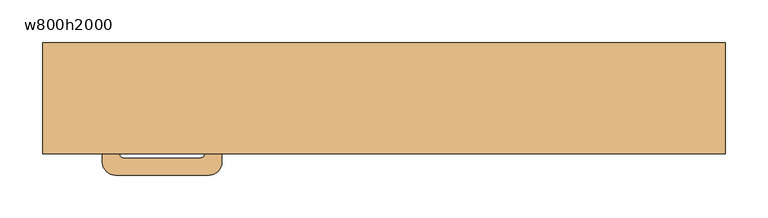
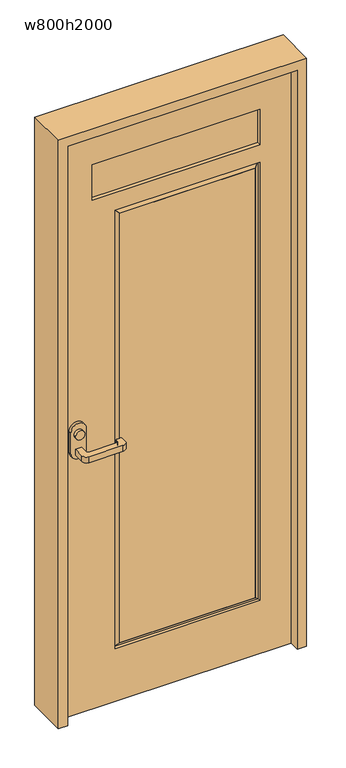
"""IFC4 building model written with IfcOpenShell, lengths in millimetres: door geometry, 片開戸CL2058 : w800h2000."""

import ifcopenshell
import ifcopenshell.guid

model = None  # the IFC model being written
_history = None  # IfcOwnerHistory: only IFC2X3 demands one
_inside = {}  # id of a spatial element -> (the spatial element, [elements in it])
_under = {}  # id of a project, library or spatial element -> (it, [spatial elements below it])
_declared = {}  # id of a project -> (the project, [libraries it declares])
_typed = {}  # id of a type object -> (the type object, [elements of that type])
_made_of = {}  # id of a material, layer set ... -> (it, [elements and type objects made of it])


def new_model(schema):
    """Start an empty IFC model of exactly this schema.

    Asked for "IFC4X3", IfcOpenShell would pick the latest addendum, in which some entities
    have other attributes; the version numbers below select the first issue.
    IFC2X3 requires an IfcOwnerHistory on every rooted entity: one is made here for all.
    """
    global model, _history
    if schema == "IFC4X3":
        model = ifcopenshell.file(schema_version=(4, 3, 0, 0))
    else:
        model = ifcopenshell.file(schema=schema)
    _inside.clear()
    _under.clear()
    _declared.clear()
    _typed.clear()
    _made_of.clear()
    _history = None
    if model.schema == "IFC2X3":
        org = make("IfcOrganization", Name="unknown")
        user = make(
            "IfcPersonAndOrganization",
            ThePerson=make("IfcPerson", FamilyName="unknown"),
            TheOrganization=org,
        )
        app = make(
            "IfcApplication",
            ApplicationDeveloper=org,
            Version="unknown",
            ApplicationFullName="unknown",
            ApplicationIdentifier="unknown",
        )
        _history = make(
            "IfcOwnerHistory",
            OwningUser=user,
            OwningApplication=app,
            ChangeAction="ADDED",
            CreationDate=0,
        )
    return model


def make(cls, **values):
    """One entity of the class cls with the attributes given. An attribute that is None is left unset."""
    return model.create_entity(
        cls, **{name: value for name, value in values.items() if value is not None}
    )


def rooted(cls, **values):
    """An entity with a GlobalId (a new one), such as an element, a storey or a relation."""
    return make(cls, GlobalId=ifcopenshell.guid.new(), OwnerHistory=_history, **values)


def si_unit(unit_type, name, prefix=None):
    """IfcSIUnit, for example si_unit("LENGTHUNIT", "METRE", prefix="MILLI")."""
    return make("IfcSIUnit", UnitType=unit_type, Prefix=prefix, Name=name)


def assignment(units):
    """IfcUnitAssignment: the units of a project."""
    return None if units is None else make("IfcUnitAssignment", Units=units)


def point(xyz):
    """IfcCartesianPoint."""
    return None if xyz is None else make("IfcCartesianPoint", Coordinates=xyz)


def direction(xyz):
    """IfcDirection."""
    return None if xyz is None else make("IfcDirection", DirectionRatios=xyz)


def frame(location, z_axis=None, x_axis=None):
    """IfcAxis2Placement3D, a coordinate frame: its origin and axes. An axis left out is left unset."""
    return make(
        "IfcAxis2Placement3D",
        Location=point(location),
        Axis=direction(z_axis),
        RefDirection=direction(x_axis),
    )


def frame_2d(location, x_axis=None):
    """IfcAxis2Placement2D, a coordinate frame in the plane: its origin and x axis."""
    return make(
        "IfcAxis2Placement2D", Location=point(location), RefDirection=direction(x_axis)
    )


def origin():
    """The frame at (0, 0, 0) with its axes left unset."""
    return frame((0.0, 0.0, 0.0))


def place(relative_to, where):
    """IfcLocalPlacement: puts the frame where relative to a parent placement (None: the world)."""
    return make(
        "IfcLocalPlacement", PlacementRelTo=relative_to, RelativePlacement=where
    )


def context(
    kind, dimensions, precision=None, world=None, true_north=None, identifier=None
):
    """IfcGeometricRepresentationContext, for example the 3D "Model" context."""
    return make(
        "IfcGeometricRepresentationContext",
        ContextIdentifier=identifier,
        ContextType=kind,
        CoordinateSpaceDimension=dimensions,
        Precision=precision,
        WorldCoordinateSystem=world,
        TrueNorth=true_north,
    )


def project(units=None, contexts=None):
    """IfcProject with its units and contexts."""
    return rooted(
        "IfcProject",
        Name="project",
        RepresentationContexts=contexts,
        UnitsInContext=assignment(units),
    )


def spatial(cls, under=None, at=None, **own):
    """A site, building, storey or space (cls), placed at a placement, below another one or the project."""
    s = rooted(cls, ObjectPlacement=at, **own)
    if under is not None:
        _under.setdefault(under.id(), (under, []))[1].append(s)
    return s


def polyline(points):
    """IfcPolyline through the points."""
    return make("IfcPolyline", Points=[point(p) for p in points])


def circle_curve(where, radius):
    """IfcCircle in the frame where."""
    return make("IfcCircle", Position=where, Radius=radius)


def trimmed(basis, trim1, trim2, sense, master):
    """IfcTrimmedCurve: the piece of a basis curve between two trims."""
    return make(
        "IfcTrimmedCurve",
        BasisCurve=basis,
        Trim1=trim1,
        Trim2=trim2,
        SenseAgreement=sense,
        MasterRepresentation=master,
    )


def segment(curve, same_sense, transition):
    """IfcCompositeCurveSegment."""
    return make(
        "IfcCompositeCurveSegment",
        Transition=transition,
        SameSense=same_sense,
        ParentCurve=curve,
    )


def composite_curve(segments, self_intersect=None):
    """IfcCompositeCurve: segments joined end to end."""
    return make("IfcCompositeCurve", Segments=segments, SelfIntersect=self_intersect)


def outline(outer, holes=None, kind="AREA"):
    """IfcArbitraryClosedProfileDef: a profile drawn as a closed curve; with holes, ...WithVoids."""
    if holes is None:
        return make("IfcArbitraryClosedProfileDef", ProfileType=kind, OuterCurve=outer)
    return make(
        "IfcArbitraryProfileDefWithVoids",
        ProfileType=kind,
        OuterCurve=outer,
        InnerCurves=holes,
    )


def extrude(swept, where, along, depth):
    """IfcExtrudedAreaSolid: the profile swept, set in the frame where, extruded along a direction by depth."""
    return make(
        "IfcExtrudedAreaSolid",
        SweptArea=swept,
        Position=where,
        ExtrudedDirection=direction(along),
        Depth=depth,
    )


def faces_of(points, faces, orient=None, outer=None):
    """IfcFace entities. A face is a list of loops; a loop is a list of indices into points, from 0.

    orient and outer hold one flag for each loop. By default every Orientation is true, the
    first loop of a face is its IfcFaceOuterBound and the others are IfcFaceBound.
    """
    made = []
    for i, loops in enumerate(faces):
        bounds = []
        for j, loop in enumerate(loops):
            is_outer = j == 0 if outer is None else outer[i][j]
            bounds.append(
                make(
                    "IfcFaceOuterBound" if is_outer else "IfcFaceBound",
                    Bound=make("IfcPolyLoop", Polygon=[points[k] for k in loop]),
                    Orientation=True if orient is None else orient[i][j],
                )
            )
        made.append(make("IfcFace", Bounds=bounds))
    return made


def faceted_brep(points, faces, orient=None, outer=None, voids=None):
    """IfcFacetedBrep: a solid bounded by flat faces; with voids (closed shells), ...WithVoids."""
    shared = [point(p) for p in points]
    hull = make("IfcClosedShell", CfsFaces=faces_of(shared, faces, orient, outer))
    if voids is None:
        return make("IfcFacetedBrep", Outer=hull)
    return make(
        "IfcFacetedBrepWithVoids",
        Outer=hull,
        Voids=[
            make(cls, CfsFaces=faces_of(shared, fs, o, b)) for cls, fs, o, b in voids
        ],
    )


def shape(context_of_items, identifier, shape_type, items):
    """IfcShapeRepresentation: the items that make up one representation, for example the "Body"."""
    return make(
        "IfcShapeRepresentation",
        ContextOfItems=context_of_items,
        RepresentationIdentifier=identifier,
        RepresentationType=shape_type,
        Items=items,
    )


def source(mapping_origin, context_of_items, identifier, shape_type, items):
    """IfcRepresentationMap: a shape defined once, which mapped items show again and again."""
    return make(
        "IfcRepresentationMap",
        MappingOrigin=mapping_origin,
        MappedRepresentation=shape(context_of_items, identifier, shape_type, items),
    )


def transform(
    local_origin,
    x_axis=None,
    y_axis=None,
    z_axis=None,
    scale=None,
    scale2=None,
    scale3=None,
    uniform=True,
):
    """IfcCartesianTransformationOperator3D, or its non-uniform kind. x_axis, y_axis, z_axis: its Axis1, 2, 3."""
    if uniform:
        return make(
            "IfcCartesianTransformationOperator3D",
            Axis1=direction(x_axis),
            Axis2=direction(y_axis),
            LocalOrigin=point(local_origin),
            Scale=scale,
            Axis3=direction(z_axis),
        )
    return make(
        "IfcCartesianTransformationOperator3DnonUniform",
        Axis1=direction(x_axis),
        Axis2=direction(y_axis),
        LocalOrigin=point(local_origin),
        Scale=scale,
        Axis3=direction(z_axis),
        Scale2=scale2,
        Scale3=scale3,
    )


def mapped(mapping_source, mapping_target):
    """IfcMappedItem: shows the shape of a source again, moved by a transform."""
    return make(
        "IfcMappedItem", MappingSource=mapping_source, MappingTarget=mapping_target
    )


def made_of(thing, what):
    """Note that an element or type object is made of a material, layer set ...; save() writes the relation."""
    if what is not None:
        _made_of.setdefault(what.id(), (what, []))[1].append(thing)
    return thing


def element(
    cls,
    number,
    at=None,
    inside=None,
    cuts=None,
    type_object=None,
    material=None,
    context=None,
    identifier="Body",
    shape_type=None,
    held_by="IfcProductDefinitionShape",
    body=None,
    shapes=None,
    **own,
):
    """One element of the class cls, such as IfcWall. Its Tag is "e" and its number.

    at: its placement. inside: the storey or other place that contains it. cuts: it is an
    opening in that element (IfcRelVoidsElement). A single representation is given by context,
    identifier, shape_type and body (its items); several are given by shapes. held_by: the class
    of the entity that holds the representations. save() writes the other relations.
    """
    e = rooted(cls, Tag="e%d" % number, ObjectPlacement=at, **own)
    if body is not None:
        shapes = [shape(context, identifier, shape_type, body)]
    if shapes is not None:
        e.Representation = make(held_by, Representations=shapes)
    if inside is not None:
        _inside.setdefault(inside.id(), (inside, []))[1].append(e)
    if cuts is not None:
        rooted(
            "IfcRelVoidsElement", RelatingBuildingElement=cuts, RelatedOpeningElement=e
        )
    if type_object is not None:
        _typed.setdefault(type_object.id(), (type_object, []))[1].append(e)
    return made_of(e, material)


def aggregate(whole, parts):
    """IfcRelAggregates: a whole, such as a stair, and the parts it consists of."""
    return rooted("IfcRelAggregates", RelatingObject=whole, RelatedObjects=parts)


def save(model, path):
    """Write the relations noted so far, then the file.

    IfcRelAggregates (storeys below a building ...), IfcRelContainedInSpatialStructure (elements
    in a storey), IfcRelDefinesByType, IfcRelAssociatesMaterial and IfcRelDeclares: one each for
    every whole, place, type object, material and project.
    """
    for whole, parts in _under.values():
        aggregate(whole, parts)
    for where, things in _inside.values():
        rooted(
            "IfcRelContainedInSpatialStructure",
            RelatedElements=things,
            RelatingStructure=where,
        )
    for kind, things in _typed.values():
        rooted("IfcRelDefinesByType", RelatedObjects=things, RelatingType=kind)
    for what, things in _made_of.values():
        rooted("IfcRelAssociatesMaterial", RelatedObjects=things, RelatingMaterial=what)
    for by, libraries in _declared.values():
        rooted("IfcRelDeclares", RelatingContext=by, RelatedDefinitions=libraries)
    model.write(path)


def w800h2000_13e9f519(model_context):
    return source(origin(), model_context, "Body", "SolidModel", [
        extrude(outline(composite_curve([segment(trimmed(circle_curve(frame_2d((-305.0, -65.0)), 5.0), [point((-310.0, -65.0))], [point((-305.0, -70.0))], True, "CARTESIAN"), True, "CONTINUOUS"), segment(polyline([(-305.0, -70.0), (-215.0, -70.0)]), True, "CONTINUOUS"), segment(trimmed(circle_curve(frame_2d((-215.0, -65.0)), 5.0), [point((-215.0, -70.0))], [point((-210.0, -65.0))], True, "CARTESIAN"), True, "CONTINUOUS"), segment(polyline([(-210.0, -65.0), (-210.0, -60.0)]), True, "CONTINUOUS"), segment(trimmed(circle_curve(frame_2d((-205.0, -60.0)), 5.0), [point((-210.0, -60.0))], [point((-205.0, -55.0))], False, "CARTESIAN"), True, "CONTINUOUS"), segment(polyline([(-205.0, -55.0), (-195.0, -55.0)]), True, "CONTINUOUS"), segment(trimmed(circle_curve(frame_2d((-195.0, -60.0)), 5.0), [point((-195.0, -55.0))], [point((-190.0, -60.0))], False, "CARTESIAN"), True, "CONTINUOUS"), segment(polyline([(-190.0, -60.0), (-190.0, -75.0)]), True, "CONTINUOUS"), segment(trimmed(circle_curve(frame_2d((-205.0, -75.0)), 15.0), [point((-190.0, -75.0))], [point((-205.0, -90.0))], False, "CARTESIAN"), True, "CONTINUOUS"), segment(polyline([(-205.0, -90.0), (-315.0, -90.0)]), True, "CONTINUOUS"), segment(trimmed(circle_curve(frame_2d((-315.0, -75.0)), 15.0), [point((-315.0, -90.0))], [point((-330.0, -75.0))], False, "CARTESIAN"), True, "CONTINUOUS"), segment(polyline([(-330.0, -75.0), (-330.0, -40.0), (-310.0, -40.0), (-310.0, -65.0)]), True, "CONTINUOUS")], self_intersect=False)), frame((0.0, 0.0, 890.0), z_axis=(0.0, 0.0, 1.0), x_axis=(1.0, 0.0, 0.0)), (0.0, 0.0, 1.0), 20.0),
        extrude(outline(composite_curve([segment(polyline([(-310.0, 35.0), (-310.0, 10.0), (-330.0, 10.0), (-330.0, 45.0)]), True, "CONTINUOUS"), segment(trimmed(circle_curve(frame_2d((-315.0, 45.0)), 15.0), [point((-330.0, 45.0))], [point((-315.0, 60.0))], False, "CARTESIAN"), True, "CONTINUOUS"), segment(polyline([(-315.0, 60.0), (-205.0, 60.0)]), True, "CONTINUOUS"), segment(trimmed(circle_curve(frame_2d((-205.0, 45.0)), 15.0), [point((-205.0, 60.0))], [point((-190.0, 45.0))], False, "CARTESIAN"), True, "CONTINUOUS"), segment(polyline([(-190.0, 45.0), (-190.0, 30.0)]), True, "CONTINUOUS"), segment(trimmed(circle_curve(frame_2d((-195.0, 30.0)), 5.0), [point((-190.0, 30.0))], [point((-195.0, 25.0))], False, "CARTESIAN"), True, "CONTINUOUS"), segment(polyline([(-195.0, 25.0), (-205.0, 25.0)]), True, "CONTINUOUS"), segment(trimmed(circle_curve(frame_2d((-205.0, 30.0)), 5.0), [point((-205.0, 25.0))], [point((-210.0, 30.0))], False, "CARTESIAN"), True, "CONTINUOUS"), segment(polyline([(-210.0, 30.0), (-210.0, 35.0)]), True, "CONTINUOUS"), segment(trimmed(circle_curve(frame_2d((-215.0, 35.0)), 5.0), [point((-210.0, 35.0))], [point((-215.0, 40.0))], True, "CARTESIAN"), True, "CONTINUOUS"), segment(polyline([(-215.0, 40.0), (-305.0, 40.0)]), True, "CONTINUOUS"), segment(trimmed(circle_curve(frame_2d((-305.0, 35.0)), 5.0), [point((-305.0, 40.0))], [point((-310.0, 35.0))], True, "CARTESIAN"), True, "CONTINUOUS")], self_intersect=False)), frame((0.0, 0.0, 890.0), z_axis=(0.0, 0.0, 1.0), x_axis=(1.0, 0.0, 0.0)), (0.0, 0.0, 1.0), 20.0),
        extrude(outline(composite_curve([segment(trimmed(circle_curve(frame_2d((960.0, -320.0)), 15.0), [point((960.0, -305.0))], [point((960.0, -335.0))], False, "CARTESIAN"), True, "CONTINUOUS"), segment(trimmed(circle_curve(frame_2d((960.0, -320.0)), 15.0), [point((960.0, -335.0))], [point((960.0, -305.0))], False, "CARTESIAN"), True, "CONTINUOUS")], self_intersect=False)), frame((0.0, 10.0, 0.0), z_axis=(0.0, 1.0, 0.0), x_axis=(0.0, 0.0, 1.0)), (0.0, 0.0, 1.0), 10.0),
        extrude(outline(composite_curve([segment(trimmed(circle_curve(frame_2d((970.0, -320.0)), 25.0), [point((970.0, -295.0))], [point((970.0, -345.0))], False, "CARTESIAN"), True, "CONTINUOUS"), segment(polyline([(970.0, -345.0), (900.0, -345.0)]), True, "CONTINUOUS"), segment(trimmed(circle_curve(frame_2d((900.0, -320.0)), 25.0), [point((900.0, -345.0))], [point((900.0, -295.0))], False, "CARTESIAN"), True, "CONTINUOUS"), segment(polyline([(900.0, -295.0), (970.0, -295.0)]), True, "CONTINUOUS")], self_intersect=False)), frame((0.0, 0.0, 0.0), z_axis=(0.0, 1.0, 0.0), x_axis=(0.0, 0.0, 1.0)), (0.0, 0.0, 1.0), 10.0),
        extrude(outline(composite_curve([segment(trimmed(circle_curve(frame_2d((960.0, -320.0)), 15.0), [point((960.0, -305.0))], [point((960.0, -335.0))], False, "CARTESIAN"), True, "CONTINUOUS"), segment(trimmed(circle_curve(frame_2d((960.0, -320.0)), 15.0), [point((960.0, -335.0))], [point((960.0, -305.0))], False, "CARTESIAN"), True, "CONTINUOUS")], self_intersect=False)), frame((0.0, -50.0, 0.0), z_axis=(0.0, 1.0, 0.0), x_axis=(0.0, 0.0, 1.0)), (0.0, 0.0, 1.0), 10.0),
        extrude(outline(composite_curve([segment(trimmed(circle_curve(frame_2d((970.0, -320.0)), 25.0), [point((970.0, -295.0))], [point((970.0, -345.0))], False, "CARTESIAN"), True, "CONTINUOUS"), segment(polyline([(970.0, -345.0), (900.0, -345.0)]), True, "CONTINUOUS"), segment(trimmed(circle_curve(frame_2d((900.0, -320.0)), 25.0), [point((900.0, -345.0))], [point((900.0, -295.0))], False, "CARTESIAN"), True, "CONTINUOUS"), segment(polyline([(900.0, -295.0), (970.0, -295.0)]), True, "CONTINUOUS")], self_intersect=False)), frame((0.0, -40.0, 0.0), z_axis=(0.0, 1.0, 0.0), x_axis=(0.0, 0.0, 1.0)), (0.0, 0.0, 1.0), 10.0),
        extrude(outline(polyline([(270.0, -12.5), (270.0, -17.5), (-270.0, -17.5), (-270.0, -12.5), (270.0, -12.5)])), frame((0.0, 0.0, 1730.0), z_axis=(0.0, 0.0, 1.0), x_axis=(1.0, 0.0, 0.0)), (0.0, 0.0, 1.0), 120.0),
        extrude(outline(polyline([(255.0, 0.0), (255.0, -30.0), (-181.5, -30.0), (-181.5, 0.0), (255.0, 0.0)])), frame((0.0, 0.0, 195.0), z_axis=(0.0, 0.0, 1.0), x_axis=(1.0, 0.0, 0.0)), (0.0, 0.0, 1.0), 1460.0),
        faceted_brep([(-181.5, 0.0, 1655.0), (-181.5, 0.0, 195.0), (-196.5, -10.0, 180.0), (-196.5, -10.0, 1670.0), (-181.5, -30.0, 1655.0), (-181.5, -30.0, 195.0), (-196.5, -20.0, 1670.0), (-196.5, -20.0, 180.0), (255.0, 0.0, 195.0), (270.0, -10.0, 180.0), (255.0, -30.0, 195.0), (270.0, -20.0, 180.0), (255.0, 0.0, 1655.0), (270.0, -10.0, 1670.0), (255.0, -30.0, 1655.0), (270.0, -20.0, 1670.0)], [[[0, 1, 2, 3]], [[4, 5, 1, 0]], [[6, 7, 5, 4]], [[3, 2, 7, 6]], [[1, 8, 9, 2]], [[5, 10, 8, 1]], [[7, 11, 10, 5]], [[2, 9, 11, 7]], [[8, 12, 13, 9]], [[10, 14, 12, 8]], [[11, 15, 14, 10]], [[9, 13, 15, 11]], [[12, 0, 3, 13]], [[14, 4, 0, 12]], [[15, 6, 4, 14]], [[13, 3, 6, 15]]]),
        extrude(outline(polyline([(1970.0, 370.0), (1970.0, -370.0), (0.0, -370.0), (0.0, 370.0), (1970.0, 370.0)]), holes=[polyline([(180.0, 270.0), (180.0, -196.5), (1670.0, -196.5), (1670.0, 270.0), (180.0, 270.0)]), polyline([(1730.0, -270.0), (1850.0, -270.0), (1850.0, 270.0), (1730.0, 270.0), (1730.0, -270.0)])]), frame((0.0, -30.0, 0.0), z_axis=(0.0, 1.0, 0.0), x_axis=(0.0, 0.0, 1.0)), (0.0, 0.0, 1.0), 30.0),
        extrude(outline(polyline([(0.0, 400.0), (2000.0, 400.0), (2000.0, -400.0), (0.0, -400.0), (0.0, -370.0), (1970.0, -370.0), (1970.0, 370.0), (0.0, 370.0), (0.0, 400.0)])), frame((0.0, -65.0, 0.0), z_axis=(0.0, 1.0, 0.0), x_axis=(0.0, 0.0, 1.0)), (0.0, 0.0, 1.0), 130.0),
    ])


if __name__ == "__main__":
    model = new_model("IFC4")
    model_context = context("Model", 3, world=origin())
    ifc_project = project(units=[si_unit("LENGTHUNIT", "METRE", prefix="MILLI")], contexts=[model_context])
    site = spatial("IfcSite", under=ifc_project)
    building = spatial("IfcBuilding", under=site)
    placement = place(None, origin())
    w800h2000_shape = w800h2000_13e9f519(model_context)
    element("IfcDoor", 1, ObjectType="片開戸CL2058 : w800h2000", at=placement, inside=building, context=model_context, shape_type="MappedRepresentation", body=[
        mapped(w800h2000_shape, transform((0.0, 0.0, 0.0), x_axis=(1.0, 0.0, 0.0), y_axis=(0.0, 1.0, 0.0), z_axis=(0.0, 0.0, 1.0))),
    ])
    save(model, "model.ifc")
